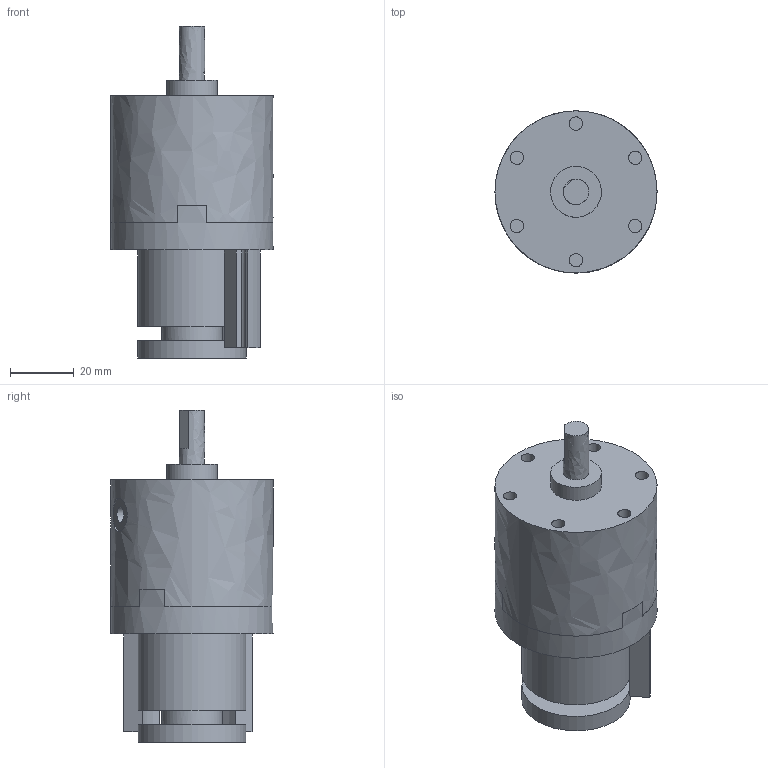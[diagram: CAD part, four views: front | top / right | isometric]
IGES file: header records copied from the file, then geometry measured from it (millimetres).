
Global section: file name: 6420_30_270_S; native system: Autodesk Inventor 2014; preprocessor: unknown; author: A. Manieri; date: 20170408.104632; units: millimetre
Bounding box: 51 x 51 x 104.5 mm (x, y, z)
Volume: 132133.9 mm3; surface area: 30777.8 mm2
Topology: 5 solids, 5 shells, 100 faces, 248 edges, 173 vertices
Faces by surface type: bspline 100
